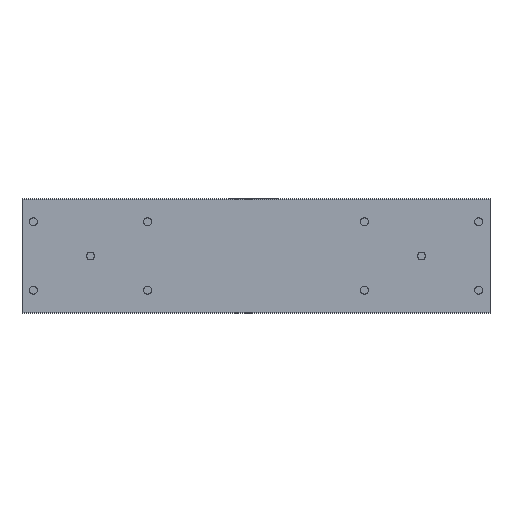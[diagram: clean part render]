
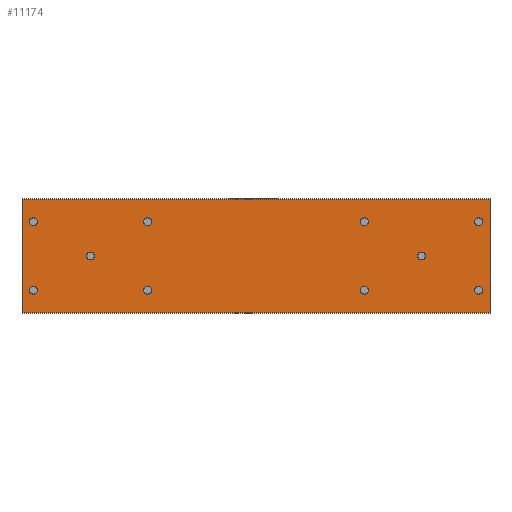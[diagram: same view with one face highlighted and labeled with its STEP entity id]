
A CAD part, front view. The second image highlights one B-rep face of the part: STEP entity #11174.
In plain terms, the highlighted planar face has unit normal (0, -1, 0).
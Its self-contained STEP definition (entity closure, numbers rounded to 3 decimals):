
#384=CIRCLE('',#11844,3.5);
#385=CIRCLE('',#11845,3.5);
#386=CIRCLE('',#11846,3.5);
#387=CIRCLE('',#11847,3.5);
#388=CIRCLE('',#11848,3.5);
#389=CIRCLE('',#11849,3.5);
#390=CIRCLE('',#11850,3.5);
#391=CIRCLE('',#11851,3.5);
#392=CIRCLE('',#11852,3.5);
#393=CIRCLE('',#11853,3.5);
#1164=ORIENTED_EDGE('',*,*,#4549,.F.);
#1165=ORIENTED_EDGE('',*,*,#4550,.F.);
#1166=ORIENTED_EDGE('',*,*,#4551,.F.);
#1167=ORIENTED_EDGE('',*,*,#4552,.F.);
#1168=ORIENTED_EDGE('',*,*,#4553,.F.);
#1169=ORIENTED_EDGE('',*,*,#4554,.F.);
#1170=ORIENTED_EDGE('',*,*,#4555,.T.);
#1171=ORIENTED_EDGE('',*,*,#4556,.F.);
#1172=ORIENTED_EDGE('',*,*,#4557,.F.);
#1173=ORIENTED_EDGE('',*,*,#4558,.F.);
#1174=ORIENTED_EDGE('',*,*,#4503,.T.);
#1175=ORIENTED_EDGE('',*,*,#4559,.F.);
#1176=ORIENTED_EDGE('',*,*,#4560,.F.);
#1177=ORIENTED_EDGE('',*,*,#4547,.T.);
#4503=EDGE_CURVE('',#6202,#6201,#7347,.T.);
#4547=EDGE_CURVE('',#6236,#6202,#7391,.T.);
#4549=EDGE_CURVE('',#6237,#6237,#384,.T.);
#4550=EDGE_CURVE('',#6238,#6238,#385,.T.);
#4551=EDGE_CURVE('',#6239,#6239,#386,.T.);
#4552=EDGE_CURVE('',#6240,#6240,#387,.T.);
#4553=EDGE_CURVE('',#6241,#6241,#388,.T.);
#4554=EDGE_CURVE('',#6242,#6242,#389,.T.);
#4555=EDGE_CURVE('',#6243,#6243,#390,.T.);
#4556=EDGE_CURVE('',#6244,#6244,#391,.T.);
#4557=EDGE_CURVE('',#6245,#6245,#392,.T.);
#4558=EDGE_CURVE('',#6246,#6246,#393,.T.);
#4559=EDGE_CURVE('',#6247,#6201,#7393,.T.);
#4560=EDGE_CURVE('',#6236,#6247,#7394,.T.);
#6201=VERTEX_POINT('',#16918);
#6202=VERTEX_POINT('',#16920);
#6236=VERTEX_POINT('',#17005);
#6237=VERTEX_POINT('',#17009);
#6238=VERTEX_POINT('',#17011);
#6239=VERTEX_POINT('',#17013);
#6240=VERTEX_POINT('',#17015);
#6241=VERTEX_POINT('',#17017);
#6242=VERTEX_POINT('',#17019);
#6243=VERTEX_POINT('',#17021);
#6244=VERTEX_POINT('',#17023);
#6245=VERTEX_POINT('',#17025);
#6246=VERTEX_POINT('',#17027);
#6247=VERTEX_POINT('',#17029);
#7347=LINE('',#16919,#8351);
#7391=LINE('',#17004,#8395);
#7393=LINE('',#17028,#8397);
#7394=LINE('',#17030,#8398);
#8351=VECTOR('',#13210,1000.);
#8395=VECTOR('',#13268,1000.);
#8397=VECTOR('',#13292,1000.);
#8398=VECTOR('',#13293,1000.);
#9337=EDGE_LOOP('',(#1164));
#9338=EDGE_LOOP('',(#1165));
#9339=EDGE_LOOP('',(#1166));
#9340=EDGE_LOOP('',(#1167));
#9341=EDGE_LOOP('',(#1168));
#9342=EDGE_LOOP('',(#1169));
#9343=EDGE_LOOP('',(#1170));
#9344=EDGE_LOOP('',(#1171));
#9345=EDGE_LOOP('',(#1172));
#9346=EDGE_LOOP('',(#1173));
#9347=EDGE_LOOP('',(#1174,#1175,#1176,#1177));
#10111=FACE_BOUND('',#9337,.T.);
#10112=FACE_BOUND('',#9338,.T.);
#10113=FACE_BOUND('',#9339,.T.);
#10114=FACE_BOUND('',#9340,.T.);
#10115=FACE_BOUND('',#9341,.T.);
#10116=FACE_BOUND('',#9342,.T.);
#10117=FACE_BOUND('',#9343,.T.);
#10118=FACE_BOUND('',#9344,.T.);
#10119=FACE_BOUND('',#9345,.T.);
#10120=FACE_BOUND('',#9346,.T.);
#10121=FACE_BOUND('',#9347,.T.);
#10885=PLANE('',#11843);
#11174=ADVANCED_FACE('',(#10111,#10112,#10113,#10114,#10115,#10116,#10117,
#10118,#10119,#10120,#10121),#10885,.F.);
#11843=AXIS2_PLACEMENT_3D('',#17007,#13270,#13271);
#11844=AXIS2_PLACEMENT_3D('',#17008,#13272,#13273);
#11845=AXIS2_PLACEMENT_3D('',#17010,#13274,#13275);
#11846=AXIS2_PLACEMENT_3D('',#17012,#13276,#13277);
#11847=AXIS2_PLACEMENT_3D('',#17014,#13278,#13279);
#11848=AXIS2_PLACEMENT_3D('',#17016,#13280,#13281);
#11849=AXIS2_PLACEMENT_3D('',#17018,#13282,#13283);
#11850=AXIS2_PLACEMENT_3D('',#17020,#13284,#13285);
#11851=AXIS2_PLACEMENT_3D('',#17022,#13286,#13287);
#11852=AXIS2_PLACEMENT_3D('',#17024,#13288,#13289);
#11853=AXIS2_PLACEMENT_3D('',#17026,#13290,#13291);
#13210=DIRECTION('',(0.,0.,-1.));
#13268=DIRECTION('',(-1.,0.,0.));
#13270=DIRECTION('',(0.,1.,0.));
#13271=DIRECTION('',(0.,0.,1.));
#13272=DIRECTION('',(0.,-1.,0.));
#13273=DIRECTION('',(0.,0.,-1.));
#13274=DIRECTION('',(0.,-1.,0.));
#13275=DIRECTION('',(0.,0.,-1.));
#13276=DIRECTION('',(0.,-1.,0.));
#13277=DIRECTION('',(0.,0.,-1.));
#13278=DIRECTION('',(0.,-1.,0.));
#13279=DIRECTION('',(0.,0.,-1.));
#13280=DIRECTION('',(0.,-1.,0.));
#13281=DIRECTION('',(0.,0.,-1.));
#13282=DIRECTION('',(0.,-1.,0.));
#13283=DIRECTION('',(0.,0.,-1.));
#13284=DIRECTION('',(0.,1.,0.));
#13285=DIRECTION('',(0.,0.,1.));
#13286=DIRECTION('',(0.,-1.,0.));
#13287=DIRECTION('',(0.,0.,-1.));
#13288=DIRECTION('',(0.,-1.,0.));
#13289=DIRECTION('',(0.,0.,-1.));
#13290=DIRECTION('',(0.,-1.,0.));
#13291=DIRECTION('',(0.,0.,-1.));
#13292=DIRECTION('',(-1.,0.,0.));
#13293=DIRECTION('',(0.,0.,-1.));
#16918=CARTESIAN_POINT('',(0.,0.,-49.7));
#16919=CARTESIAN_POINT('',(0.,0.,49.7));
#16920=CARTESIAN_POINT('',(0.,0.,49.7));
#17004=CARTESIAN_POINT('',(410.,0.,49.7));
#17005=CARTESIAN_POINT('',(410.,0.,49.7));
#17007=CARTESIAN_POINT('',(410.,0.,49.7));
#17008=CARTESIAN_POINT('',(300.,0.,-30.));
#17009=CARTESIAN_POINT('',(300.,0.,-33.5));
#17010=CARTESIAN_POINT('',(300.,0.,30.));
#17011=CARTESIAN_POINT('',(300.,0.,26.5));
#17012=CARTESIAN_POINT('',(110.,0.,-30.));
#17013=CARTESIAN_POINT('',(110.,0.,-33.5));
#17014=CARTESIAN_POINT('',(110.,0.,30.));
#17015=CARTESIAN_POINT('',(110.,0.,26.5));
#17016=CARTESIAN_POINT('',(350.,0.,0.));
#17017=CARTESIAN_POINT('',(350.,0.,-3.5));
#17018=CARTESIAN_POINT('',(60.,0.,0.));
#17019=CARTESIAN_POINT('',(60.,0.,-3.5));
#17020=CARTESIAN_POINT('',(400.,0.,30.));
#17021=CARTESIAN_POINT('',(400.,0.,33.5));
#17022=CARTESIAN_POINT('',(400.,0.,-30.));
#17023=CARTESIAN_POINT('',(400.,0.,-33.5));
#17024=CARTESIAN_POINT('',(10.,0.,-30.));
#17025=CARTESIAN_POINT('',(10.,0.,-33.5));
#17026=CARTESIAN_POINT('',(10.,0.,30.));
#17027=CARTESIAN_POINT('',(10.,0.,26.5));
#17028=CARTESIAN_POINT('',(410.,0.,-49.7));
#17029=CARTESIAN_POINT('',(410.,0.,-49.7));
#17030=CARTESIAN_POINT('',(410.,0.,49.7));
